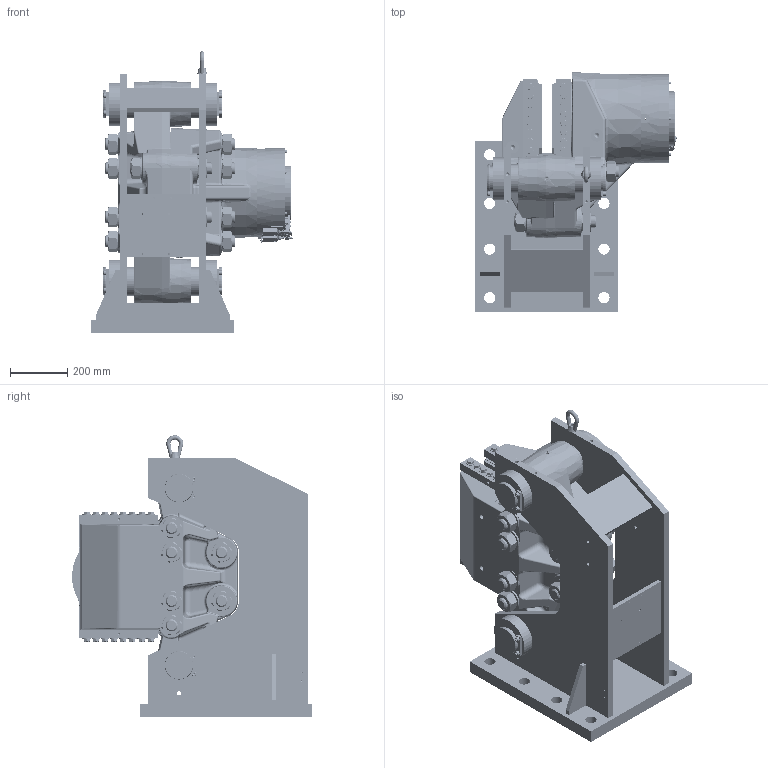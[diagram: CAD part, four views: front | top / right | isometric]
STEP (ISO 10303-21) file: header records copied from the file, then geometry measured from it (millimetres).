
FILE_DESCRIPTION((''),'2;1');
FILE_NAME('HS_215_FHM-560R-H_ASM','2020-11-02T',('BOLS'),(''),'CREO PARAMETRIC BY PTC INC, 2018360','CREO PARAMETRIC BY PTC INC, 2018360','');
FILE_SCHEMA(('CONFIG_CONTROL_DESIGN'));
Products named in the file (174): 12662-101_S400_SUPPORT_PER-8716; 12662-101_S400_SUPPORT_PE-16955; 12662-101_S400_SUPPORT_PE-49662; 12662-101_S400_SUPPORT_PE-50852; 12662-101_S400_SUPPORT_PE-57740; 12662-101_S400_SUPPORT_PE-59440; 12662-101_S400_SUPPORT_PE-72628; 12662-101_S400_SUPPORT_PE-75804; 12662-101_S400_SUPPORT_PE-82882; 12662-101_S400_SUPPORT_PE-89714; 12662-101_S400_SUPPORT_PE-98658; 12662-101_S400_SUPPORT_P-105073; 12662-101_S400_SUPPORT_P-124816; 12662-101_S400_SUPPORT_P-125003; 12662-101_S400_SUPPORT_P-138985; 12662-101_S400_SUPPORT_P-140059; ANNEAU_DE_LEVAGE_FEMELLE_M16_MI; 12662-E21-20_STEP_S400_SH_GAU_1_ASM; 12662-E21-20_STEP_S400_SH_GAUCH_ASM; HS_215_SUPPORT_ASM_ASM; 12662-E20_S400SH-1_12662-COU-25; 12662-E20_S400SH-1_12662-E-1455; 12662-E20_S400SH-1_12662-C-1755; 12662-E20_S400SH-1_12662-C-1945; 12662-E20_S400SH-1_12662-C-2129; 12662-E20_S400SH-1_12662-C-3502; 12662-E20_S400SH-1_12662-E-5085; 12662-E20_S400SH-1_12662-C-5263; 12662-E20_S400SH-1_12662-C-6694; 12662-E20_S400SH-1_12662-E-7184; 12662-E20_S400SH-1_12662-E-7916; 12662-E20_S400SH-1_12662-E-9083; 12662-E20_S400SH-1_12662--11703; 12662-E20_S400SH-1_12662--11887; 12662-E20_S400SH-1_12662--11942; 12662-E20_S400SH-1_12662--16720; 12662-E20_S400SH-1_12662--18637; 12662-E20_S400SH-1_12662--18891; 12662-E20_S400SH-1_12662--19023; 12662-E20_S400SH-1_12662--19701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
Assembly tree (173 placements, depth 5):
  HS_215_FHM-560R-H_ASM
    HS_215_SUPPORT_ASM_ASM
      12662-E21-20_STEP_S400_SH_GAUCH_ASM
        12662-E21-20_STEP_S400_SH_GAU_1_ASM
          12662-101_S400_SUPPORT_PER-8716
          12662-101_S400_SUPPORT_PE-16955
          12662-101_S400_SUPPORT_PE-49662
          12662-101_S400_SUPPORT_PE-50852
          12662-101_S400_SUPPORT_PE-57740
          12662-101_S400_SUPPORT_PE-59440
          12662-101_S400_SUPPORT_PE-72628
          12662-101_S400_SUPPORT_PE-75804
          12662-101_S400_SUPPORT_PE-82882
          12662-101_S400_SUPPORT_PE-89714
          12662-101_S400_SUPPORT_PE-98658
          12662-101_S400_SUPPORT_P-105073
          12662-101_S400_SUPPORT_P-124816
          12662-101_S400_SUPPORT_P-125003
          12662-101_S400_SUPPORT_P-138985
          12662-101_S400_SUPPORT_P-140059
          ANNEAU_DE_LEVAGE_FEMELLE_M16_MI
    HS_215_BRAKE_ASM_ASM
      HS_215_BRAKE_ASM_1_ASM
        12662-E21-20_STEP_S400_SH_GAU_2_ASM
          12662-E20_S400SH-1_12662-COU-25
          12662-E20_S400SH-1_12662-E-1455
          12662-E20_S400SH-1_12662-C-1755
          12662-E20_S400SH-1_12662-C-1945
          12662-E20_S400SH-1_12662-C-2129
          12662-E20_S400SH-1_12662-C-3502
          12662-E20_S400SH-1_12662-E-5085
          12662-E20_S400SH-1_12662-C-5263
          12662-E20_S400SH-1_12662-C-6694
          12662-E20_S400SH-1_12662-E-7184
          12662-E20_S400SH-1_12662-E-7916
          12662-E20_S400SH-1_12662-E-9083
          12662-E20_S400SH-1_12662--11703
          12662-E20_S400SH-1_12662--11887
          12662-E20_S400SH-1_12662--11942
          12662-E20_S400SH-1_12662--16720
          12662-E20_S400SH-1_12662--18637
          12662-E20_S400SH-1_12662--18891
          12662-E20_S400SH-1_12662--19023
          12662-E20_S400SH-1_12662--19701
          12662-E20_S400SH-1_12662--20381
          12662-E20_S400SH-1_12662--21296
          12662-E20_S400SH-1_12662--23309
          12662-E20_S400SH-1_12662--24121
          12662-E20_S400SH-1_12662--26928
          12662-E20_S400SH-1_12662--28853
          12662-E20_S400SH-1_12662--30294
          12662-E20_S400SH-1_12662--30782
          12662-E20_S400SH-1_12662--31344
          12662-E20_S400SH-1_12662--32030
          12662-E20_S400SH-1_12662--34640
          12662-E20_S400SH-1_12662--34820
          12662-E20_S400SH-1_12662--37339
          12662-E20_S400SH-1_12662--37599
          12662-E20_S400SH-1_12662--38336
          12662-E20_S400SH-1_12662--39572
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Bounding box: 704.1 x 839.11 x 985 mm (x, y, z)
Volume: 93592169.8 mm3; surface area: 7616438.3 mm2
Topology: 167 solids, 167 shells, 4219 faces, 9945 edges, 5994 vertices
Faces by surface type: plane 1390, cylinder 1373, cone 878, bspline 296, torus 207, sphere 73, extrusion 2
Entity records: 191058 total; most frequent: CARTESIAN_POINT 62036, DIRECTION 20605, ORIENTED_EDGE 19262, PRESENTATION_STYLE_ASSIGNMENT 9798, STYLED_ITEM 9798, CURVE_STYLE 9631, EDGE_CURVE 9631, AXIS2_PLACEMENT_3D 8333
